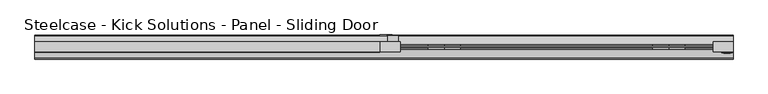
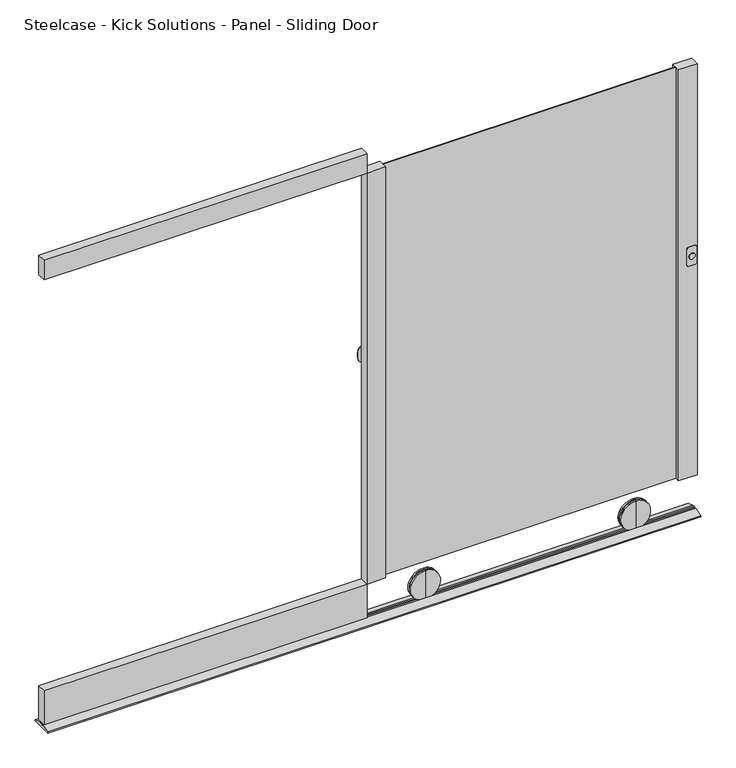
"""IFC4 building model written with IfcOpenShell, lengths in millimetres: furniture geometry, Steelcase - Kick Solutions - Panel - Sliding Door : 66H x 42W - Left Hand with Lock."""

from ifc_helpers import new_model, si_unit, point, frame, frame_2d, origin, place, context, project, spatial, polyline, circle_curve, trimmed, segment, composite_curve, outline, extrude, source, transform, mapped, element, save
from ifc_brep_helpers import plane_surface, cylinder_surface, advanced_brep


def steelcase_kick_solutions_panel_sliding_door_2f78c5bb(model_context):
    return source(origin(), model_context, "Body", "SolidModel", [
        extrude(outline(composite_curve([segment(trimmed(circle_curve(frame_2d((927.2505008, 1098.5500484)), 10.2804656), [point((937.5309664, 1098.5500484))], [point((916.9700352, 1098.5500484))], False, "CARTESIAN"), True, "CONTINUOUS"), segment(trimmed(circle_curve(frame_2d((927.2505008, 1098.5500484)), 10.2804656), [point((916.9700352, 1098.5500484))], [point((937.5309664, 1098.5500484))], False, "CARTESIAN"), True, "CONTINUOUS")], self_intersect=False)), frame((0.0, -46.3394499, 0.0), z_axis=(0.0, 1.0, 0.0), x_axis=(0.0, 0.0, 1.0)), (0.0, 0.0, 1.0), 2.159),
        extrude(outline(composite_curve([segment(polyline([(960.7539028, 1108.7923137), (960.7539028, 1088.4723137)]), True, "CONTINUOUS"), segment(trimmed(circle_curve(frame_2d((954.4039028, 1088.4723137)), 6.35), [point((960.7539028, 1088.4723137))], [point((954.4039028, 1082.1223137))], False, "CARTESIAN"), True, "CONTINUOUS"), segment(polyline([(954.4039028, 1082.1223137), (899.7939028, 1082.1223137)]), True, "CONTINUOUS"), segment(trimmed(circle_curve(frame_2d((899.7939028, 1088.4723137)), 6.35), [point((899.7939028, 1082.1223137))], [point((893.4439028, 1088.4723137))], False, "CARTESIAN"), True, "CONTINUOUS"), segment(polyline([(893.4439028, 1088.4723137), (893.4439028, 1108.7923137)]), True, "CONTINUOUS"), segment(trimmed(circle_curve(frame_2d((899.7939028, 1108.7923137)), 6.35), [point((893.4439028, 1108.7923137))], [point((899.7939028, 1115.1423137))], False, "CARTESIAN"), True, "CONTINUOUS"), segment(polyline([(899.7939028, 1115.1423137), (954.4039028, 1115.1423137)]), True, "CONTINUOUS"), segment(trimmed(circle_curve(frame_2d((954.4039028, 1108.7923137)), 6.35), [point((954.4039028, 1115.1423137))], [point((960.7539028, 1108.7923137))], False, "CARTESIAN"), True, "CONTINUOUS")], self_intersect=False)), frame((0.0, -44.1804499, 0.0), z_axis=(0.0, 1.0, 0.0), x_axis=(0.0, 0.0, 1.0)), (0.0, 0.0, 1.0), 2.1118392),
        extrude(outline(composite_curve([segment(polyline([(942.3399783, 38.2041062), (955.0399783, 38.2041062), (955.0399783, 22.4914583)]), True, "CONTINUOUS"), segment(trimmed(circle_curve(frame_2d((932.54852, 22.4914583)), 22.4914583), [point((955.0399783, 22.4914583))], [point((932.54852, 0.0))], False, "CARTESIAN"), True, "CONTINUOUS"), segment(polyline([(932.54852, 0.0), (913.3157475, 0.0)]), True, "CONTINUOUS"), segment(trimmed(circle_curve(frame_2d((913.3157475, 21.7757692)), 21.7757692), [point((913.3157475, 0.0))], [point((891.5399783, 21.7757692))], False, "CARTESIAN"), True, "CONTINUOUS"), segment(polyline([(891.5399783, 21.7757692), (891.5399783, 38.2041062), (904.2399783, 38.2041062), (904.2399783, 20.525442)]), True, "CONTINUOUS"), segment(trimmed(circle_curve(frame_2d((911.9613141, 20.525442)), 7.7213358), [point((904.2399783, 20.525442))], [point((911.9613141, 12.8041062))], True, "CARTESIAN"), True, "CONTINUOUS"), segment(polyline([(911.9613141, 12.8041062), (933.6356449, 12.8041062)]), True, "CONTINUOUS"), segment(trimmed(circle_curve(frame_2d((933.6356449, 21.5084396)), 8.7043334), [point((933.6356449, 12.8041062))], [point((942.3399783, 21.5084396))], True, "CARTESIAN"), True, "CONTINUOUS"), segment(polyline([(942.3399783, 21.5084396), (942.3399783, 38.2041062)]), True, "CONTINUOUS")], self_intersect=False)), frame((0.0, 9.7793101, 0.0), z_axis=(0.0, 1.0, 0.0), x_axis=(0.0, 0.0, 1.0)), (0.0, 0.0, 1.0), 2.1118397),
        extrude(outline(polyline([(58.3565349, -10.3186092), (25.3365349, -10.3186092), (25.3365349, 9.7793101), (58.3565349, 9.7793101), (58.3565349, -10.3186092)])), frame((0.0, 0.0, 828.6739028), z_axis=(0.0, 0.0, 1.0), x_axis=(1.0, 0.0, 0.0)), (0.0, 0.0, 1.0), 196.85),
        advanced_brep(
        [(914.4000484, -18.7010906, 6.7959428), (914.4000484, -18.7010906, 108.3959428), (914.4000484, -18.7010906, 57.5959428), (914.4000484, -23.8703628, 6.7959428), (914.4000484, -23.8703628, 108.3959428), (914.4000484, -23.8703628, 57.5959428)],
        [
            (0, 1, circle_curve(frame((914.4000484, -18.7010906, 57.5959428), z_axis=(0.0, 1.0, 0.0), x_axis=(0.0, 0.0, 1.0)), 50.8)),
            (1, 2),
            (2, 0),
            (1, 0, circle_curve(frame((914.4000484, -18.7010906, 57.5959428), z_axis=(0.0, 1.0, 0.0), x_axis=(0.0, 0.0, 1.0)), 50.8)),
            (3, 4, circle_curve(frame((914.4000484, -23.8703628, 57.5959428), z_axis=(0.0, 1.0, 0.0), x_axis=(0.0, 0.0, 1.0)), 50.8)),
            (4, 1),
            (0, 3),
            (4, 3, circle_curve(frame((914.4000484, -23.8703628, 57.5959428), z_axis=(0.0, 1.0, 0.0), x_axis=(0.0, 0.0, 1.0)), 50.8)),
            (5, 4),
            (3, 5),
        ],
        [
            plane_surface(frame((914.4000484, -18.7010906, 57.5959428), z_axis=(0.0, 1.0, 0.0), x_axis=(0.0, 0.0, 1.0))),
            cylinder_surface(frame((914.4000484, -28.422537, 57.5959428), z_axis=(0.0, -1.0, 0.0), x_axis=(0.0, 0.0, 1.0)), 50.8),
            plane_surface(frame((914.4000484, -23.8703628, 57.5959428), z_axis=(0.0, -1.0, 0.0), x_axis=(0.0, 0.0, 1.0))),
        ],
        [
            (0, [[1, 2, 3]]),
            (0, [[4, -3, -2]]),
            (1, [[5, 6, -1, 7]]),
            (1, [[8, -7, -4, -6]]),
            (2, [[9, -5, 10]]),
            (2, [[-10, -8, -9]]),
        ],
    ),
        advanced_brep(
        [(914.4000484, -28.422537, 6.7959428), (914.4000484, -28.422537, 108.3959428), (914.4000484, -28.422537, 57.5959428), (914.4000484, -33.4459111, 6.7959428), (914.4000484, -33.4459111, 108.3959428), (914.4000484, -33.4459111, 57.5959428)],
        [
            (0, 1, circle_curve(frame((914.4000484, -28.422537, 57.5959428), z_axis=(0.0, 1.0, 0.0), x_axis=(0.0, 0.0, 1.0)), 50.8)),
            (1, 2),
            (2, 0),
            (1, 0, circle_curve(frame((914.4000484, -28.422537, 57.5959428), z_axis=(0.0, 1.0, 0.0), x_axis=(0.0, 0.0, 1.0)), 50.8)),
            (3, 4, circle_curve(frame((914.4000484, -33.4459111, 57.5959428), z_axis=(0.0, 1.0, 0.0), x_axis=(0.0, 0.0, 1.0)), 50.8)),
            (4, 1),
            (0, 3),
            (4, 3, circle_curve(frame((914.4000484, -33.4459111, 57.5959428), z_axis=(0.0, 1.0, 0.0), x_axis=(0.0, 0.0, 1.0)), 50.8)),
            (5, 4),
            (3, 5),
        ],
        [
            plane_surface(frame((914.4000484, -28.422537, 57.5959428), z_axis=(0.0, 1.0, 0.0), x_axis=(0.0, 0.0, 1.0))),
            cylinder_surface(frame((914.4000484, -28.422537, 57.5959428), z_axis=(0.0, -1.0, 0.0), x_axis=(0.0, 0.0, 1.0)), 50.8),
            plane_surface(frame((914.4000484, -33.4459111, 57.5959428), z_axis=(0.0, -1.0, 0.0), x_axis=(0.0, 0.0, 1.0))),
        ],
        [
            (0, [[1, 2, 3]]),
            (0, [[4, -3, -2]]),
            (1, [[5, 6, -1, 7]]),
            (1, [[8, -7, -4, -6]]),
            (2, [[9, -5, 10]]),
            (2, [[-10, -8, -9]]),
        ],
    ),
        advanced_brep(
        [(203.2000484, -18.7010906, 6.7959428), (203.2000484, -18.7010906, 108.3959428), (203.2000484, -18.7010906, 57.5959428), (203.2000484, -23.8703628, 6.7959428), (203.2000484, -23.8703628, 108.3959428), (203.2000484, -23.8703628, 57.5959428)],
        [
            (0, 1, circle_curve(frame((203.2000484, -18.7010906, 57.5959428), z_axis=(0.0, 1.0, 0.0), x_axis=(0.0, 0.0, 1.0)), 50.8)),
            (1, 2),
            (2, 0),
            (1, 0, circle_curve(frame((203.2000484, -18.7010906, 57.5959428), z_axis=(0.0, 1.0, 0.0), x_axis=(0.0, 0.0, 1.0)), 50.8)),
            (3, 4, circle_curve(frame((203.2000484, -23.8703628, 57.5959428), z_axis=(0.0, 1.0, 0.0), x_axis=(0.0, 0.0, 1.0)), 50.8)),
            (4, 1),
            (0, 3),
            (4, 3, circle_curve(frame((203.2000484, -23.8703628, 57.5959428), z_axis=(0.0, 1.0, 0.0), x_axis=(0.0, 0.0, 1.0)), 50.8)),
            (5, 4),
            (3, 5),
        ],
        [
            plane_surface(frame((203.2000484, -18.7010906, 57.5959428), z_axis=(0.0, 1.0, 0.0), x_axis=(0.0, 0.0, 1.0))),
            cylinder_surface(frame((203.2000484, -28.422537, 57.5959428), z_axis=(0.0, -1.0, 0.0), x_axis=(0.0, 0.0, 1.0)), 50.8),
            plane_surface(frame((203.2000484, -23.8703628, 57.5959428), z_axis=(0.0, -1.0, 0.0), x_axis=(0.0, 0.0, 1.0))),
        ],
        [
            (0, [[1, 2, 3]]),
            (0, [[4, -3, -2]]),
            (1, [[5, 6, -1, 7]]),
            (1, [[8, -7, -4, -6]]),
            (2, [[9, -5, 10]]),
            (2, [[-10, -8, -9]]),
        ],
    ),
        advanced_brep(
        [(203.2000484, -28.422537, 6.7959428), (203.2000484, -28.422537, 108.3959428), (203.2000484, -28.422537, 57.5959428), (203.2000484, -33.4459111, 6.7959428), (203.2000484, -33.4459111, 108.3959428), (203.2000484, -33.4459111, 57.5959428)],
        [
            (0, 1, circle_curve(frame((203.2000484, -28.422537, 57.5959428), z_axis=(0.0, 1.0, 0.0), x_axis=(0.0, 0.0, 1.0)), 50.8)),
            (1, 2),
            (2, 0),
            (1, 0, circle_curve(frame((203.2000484, -28.422537, 57.5959428), z_axis=(0.0, 1.0, 0.0), x_axis=(0.0, 0.0, 1.0)), 50.8)),
            (3, 4, circle_curve(frame((203.2000484, -33.4459111, 57.5959428), z_axis=(0.0, 1.0, 0.0), x_axis=(0.0, 0.0, 1.0)), 50.8)),
            (4, 1),
            (0, 3),
            (4, 3, circle_curve(frame((203.2000484, -33.4459111, 57.5959428), z_axis=(0.0, 1.0, 0.0), x_axis=(0.0, 0.0, 1.0)), 50.8)),
            (5, 4),
            (3, 5),
        ],
        [
            plane_surface(frame((203.2000484, -28.422537, 57.5959428), z_axis=(0.0, 1.0, 0.0), x_axis=(0.0, 0.0, 1.0))),
            cylinder_surface(frame((203.2000484, -28.422537, 57.5959428), z_axis=(0.0, -1.0, 0.0), x_axis=(0.0, 0.0, 1.0)), 50.8),
            plane_surface(frame((203.2000484, -33.4459111, 57.5959428), z_axis=(0.0, -1.0, 0.0), x_axis=(0.0, 0.0, 1.0))),
        ],
        [
            (0, [[1, 2, 3]]),
            (0, [[4, -3, -2]]),
            (1, [[5, 6, -1, 7]]),
            (1, [[8, -7, -4, -6]]),
            (2, [[9, -5, 10]]),
            (2, [[-10, -8, -9]]),
        ],
    ),
        extrude(outline(polyline([(63.5000484, -42.0686107), (0.0, -42.0686107), (0.0, -10.3186092), (63.5000484, -10.3186092), (63.5000484, -42.0686107)])), frame((0.0, 0.0, 137.1589063), z_axis=(0.0, 0.0, 1.0), x_axis=(1.0, 0.0, 0.0)), (0.0, 0.0, 1.0), 1469.3911421),
        extrude(outline(polyline([(1117.6, -42.0686107), (1054.1000484, -42.0686107), (1054.1000484, -10.3186092), (1117.6, -10.3186092), (1117.6, -42.0686107)])), frame((0.0, 0.0, 137.1589063), z_axis=(0.0, 0.0, 1.0), x_axis=(1.0, 0.0, 0.0)), (0.0, 0.0, 1.0), 1469.3911421),
        extrude(outline(polyline([(-24.2505784, 6.2879429), (-17.9005799, 6.2879429), (-17.9005799, 12.2490843), (10.0049365, 3.0138476), (11.9383101, 0.0), (-64.2312094, 0.0), (-62.2978359, 3.0138476), (-34.3923194, 12.2490843), (-34.3923194, 6.2879429), (-28.042321, 6.2879429), (-28.042321, 12.6379425), (-24.2505784, 12.6379425), (-24.2505784, 6.2879429)])), frame((-1092.2, 0.0, 0.0), z_axis=(1.0, 0.0, 0.0), x_axis=(0.0, 1.0, 0.0)), (0.0, 0.0, 1.0), 2209.8),
        extrude(outline(polyline([(0.0, -10.3186092), (0.0, -42.0686107), (-1092.2, -42.0686107), (-1092.2, -10.3186092), (0.0, -10.3186092)])), frame((0.0, 0.0, 16.5089033), z_axis=(0.0, 0.0, 1.0), x_axis=(1.0, 0.0, 0.0)), (0.0, 0.0, 1.0), 120.650003),
        extrude(outline(polyline([(0.0, -10.3186092), (0.0, -42.0686107), (-1092.2, -42.0686107), (-1092.2, -10.3186092), (0.0, -10.3186092)])), frame((0.0, 0.0, 1606.5500484), z_axis=(0.0, 0.0, 1.0), x_axis=(1.0, 0.0, 0.0)), (0.0, 0.0, 1.0), 69.8499516),
        extrude(outline(polyline([(1054.1000484, -27.6369762), (63.5000484, -27.6369762), (63.5000484, -24.6559232), (1054.1000484, -24.6559232), (1054.1000484, -27.6369762)])), frame((0.0, 0.0, 137.1589063), z_axis=(0.0, 0.0, 1.0), x_axis=(1.0, 0.0, 0.0)), (0.0, 0.0, 1.0), 1469.3911421),
    ])


if __name__ == "__main__":
    model = new_model("IFC4")
    model_context = context("Model", 3, world=origin())
    ifc_project = project(units=[si_unit("LENGTHUNIT", "METRE", prefix="MILLI")], contexts=[model_context])
    site = spatial("IfcSite", under=ifc_project)
    building = spatial("IfcBuilding", under=site)
    placement = place(None, origin())
    steelcase_kick_solutions_panel_sliding_door_shape = steelcase_kick_solutions_panel_sliding_door_2f78c5bb(model_context)
    element("IfcFurniture", 1, ObjectType="Steelcase - Kick Solutions - Panel - Sliding Door : 66H x 42W - Left Hand with Lock", at=placement, inside=building, context=model_context, shape_type="MappedRepresentation", body=[
        mapped(steelcase_kick_solutions_panel_sliding_door_shape, transform((0.0, 0.0, 0.0), x_axis=(1.0, 0.0, 0.0), y_axis=(0.0, 1.0, 0.0), z_axis=(0.0, 0.0, 1.0))),
    ])
    save(model, "model.ifc")
